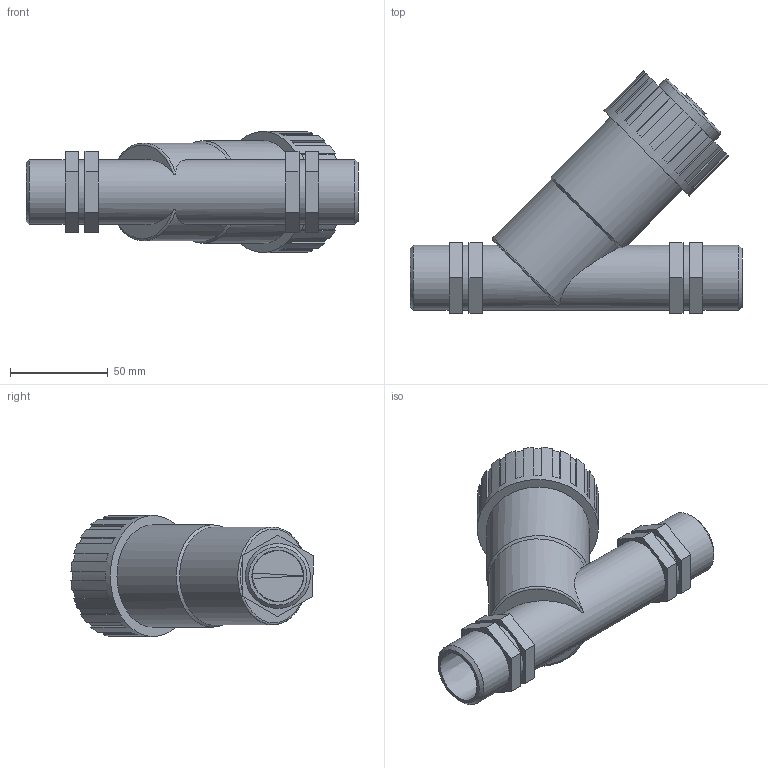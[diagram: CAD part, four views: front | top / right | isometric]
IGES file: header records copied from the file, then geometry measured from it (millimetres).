
Global section: file name: 03067110_030671100A.ipt; native system: Autodesk Inventor 2015; preprocessor: unknown; author: KIM; date: 20170619.121329; units: millimetre
Bounding box: 170 x 123.99 x 62.01 mm (x, y, z)
Volume: 307978.9 mm3; surface area: 57062.8 mm2
Topology: 1 solids, 2 shells, 138 faces, 372 edges, 248 vertices
Faces by surface type: plane 100, cylinder 31, revolution 4, cone 3
Full cylindrical faces by diameter (mm): 14.31 x1, 33.249 x5, 40.068 x1, 52.47 x1, 62.01 x1
